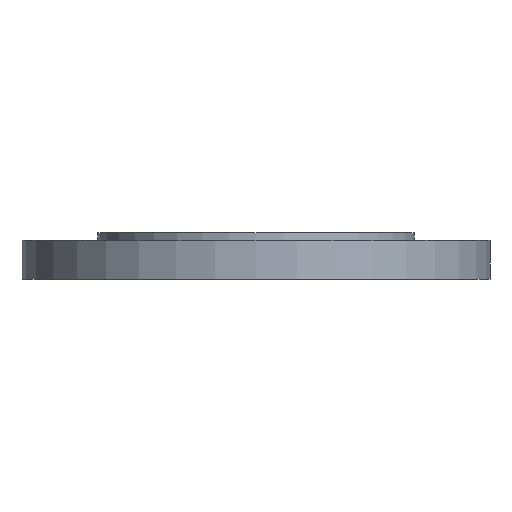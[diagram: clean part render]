
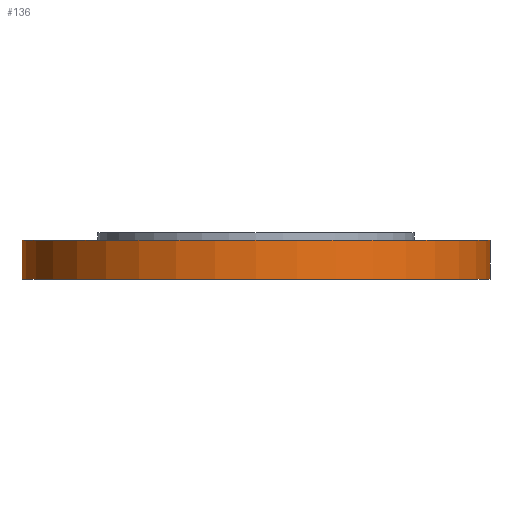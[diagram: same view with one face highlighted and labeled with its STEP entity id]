
A CAD part, front view. The second image highlights one B-rep face of the part: STEP entity #136.
In plain terms, the highlighted cylindrical face has radius 150 mm (diameter 300 mm), a partial arc.
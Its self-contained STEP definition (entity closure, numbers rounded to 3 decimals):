
#4 = EDGE_CURVE ( 'NONE', #944, #697, #461, .T. ) ;
#19 = CARTESIAN_POINT ( 'NONE',  ( 0., 0., -5. ) ) ;
#23 = DIRECTION ( 'NONE',  ( 0., 0., -1. ) ) ;
#25 = DIRECTION ( 'NONE',  ( -1., 0., 0. ) ) ;
#96 = CARTESIAN_POINT ( 'NONE',  ( -150., 0., -30. ) ) ;
#108 = CARTESIAN_POINT ( 'NONE',  ( 150., 0., -5. ) ) ;
#116 = AXIS2_PLACEMENT_3D ( 'NONE', #365, #363, #362 ) ;
#117 = DIRECTION ( 'NONE',  ( 0., 0., 1. ) ) ;
#136 = ADVANCED_FACE ( 'NONE', ( #354 ), #361, .T. ) ;
#230 = CIRCLE ( 'NONE', #116, 150. ) ;
#302 = CARTESIAN_POINT ( 'NONE',  ( -150., 0., -5. ) ) ;
#354 = FACE_OUTER_BOUND ( 'NONE', #962, .T. ) ;
#361 = CYLINDRICAL_SURFACE ( 'NONE', #548, 150. ) ;
#362 = DIRECTION ( 'NONE',  ( -1., 0., 0. ) ) ;
#363 = DIRECTION ( 'NONE',  ( 0., 0., -1. ) ) ;
#365 = CARTESIAN_POINT ( 'NONE',  ( 0., 0., -30. ) ) ;
#367 = CARTESIAN_POINT ( 'NONE',  ( 0., 0., -85. ) ) ;
#372 = DIRECTION ( 'NONE',  ( 0., 0., 1. ) ) ;
#378 = DIRECTION ( 'NONE',  ( 1., 0., 0. ) ) ;
#423 = VECTOR ( 'NONE', #117, 1000. ) ;
#446 = AXIS2_PLACEMENT_3D ( 'NONE', #19, #23, #25 ) ;
#450 = VERTEX_POINT ( 'NONE', #496 ) ;
#458 = EDGE_CURVE ( 'NONE', #450, #944, #543, .T. ) ;
#461 = CIRCLE ( 'NONE', #446, 150. ) ;
#496 = CARTESIAN_POINT ( 'NONE',  ( 150., 0., -30. ) ) ;
#500 = DIRECTION ( 'NONE',  ( 0., 0., 1. ) ) ;
#516 = VECTOR ( 'NONE', #500, 1000. ) ;
#543 = LINE ( 'NONE', #565, #516 ) ;
#548 = AXIS2_PLACEMENT_3D ( 'NONE', #367, #372, #378 ) ;
#565 = CARTESIAN_POINT ( 'NONE',  ( 150., 0., -85. ) ) ;
#593 = CARTESIAN_POINT ( 'NONE',  ( -150., 0., -85. ) ) ;
#643 = EDGE_CURVE ( 'NONE', #450, #963, #230, .T. ) ;
#697 = VERTEX_POINT ( 'NONE', #302 ) ;
#799 = LINE ( 'NONE', #593, #423 ) ;
#806 = ORIENTED_EDGE ( 'NONE', *, *, #934, .F. ) ;
#809 = ORIENTED_EDGE ( 'NONE', *, *, #643, .F. ) ;
#810 = ORIENTED_EDGE ( 'NONE', *, *, #458, .T. ) ;
#811 = ORIENTED_EDGE ( 'NONE', *, *, #4, .T. ) ;
#934 = EDGE_CURVE ( 'NONE', #963, #697, #799, .T. ) ;
#944 = VERTEX_POINT ( 'NONE', #108 ) ;
#962 = EDGE_LOOP ( 'NONE', ( #806, #809, #810, #811 ) ) ;
#963 = VERTEX_POINT ( 'NONE', #96 ) ;
